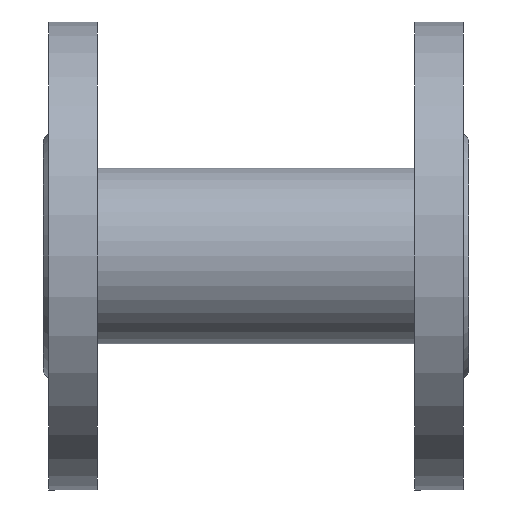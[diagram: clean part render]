
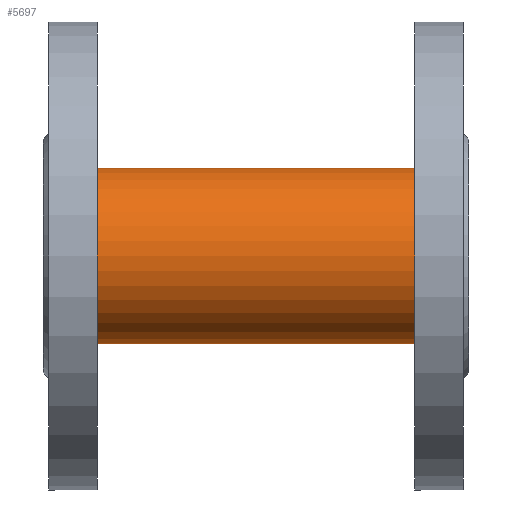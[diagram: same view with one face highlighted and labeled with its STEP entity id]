
A CAD part, front view. The second image highlights one B-rep face of the part: STEP entity #5697.
In plain terms, the highlighted cylindrical face has radius 31 mm (diameter 62 mm), a full revolution.
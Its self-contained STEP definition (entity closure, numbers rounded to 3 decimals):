
#1925=ELLIPSE('',#29330,43.841,31.);
#1926=ELLIPSE('',#29331,43.841,31.);
#1927=ELLIPSE('',#29332,43.841,31.);
#1928=ELLIPSE('',#29333,43.841,31.);
#2152=CYLINDRICAL_SURFACE('',#29336,31.);
#3135=FACE_BOUND('',#9742,.T.);
#3136=FACE_BOUND('',#9743,.T.);
#3137=FACE_BOUND('',#9744,.T.);
#4235=CIRCLE('',#29334,31.);
#4236=CIRCLE('',#29335,31.);
#5697=ADVANCED_FACE('',(#3135,#3136,#3137),#2152,.T.);
#9742=EDGE_LOOP('',(#15304,#15305,#15306,#15307,#15308,#15309));
#9743=EDGE_LOOP('',(#15310));
#9744=EDGE_LOOP('',(#15311));
#15304=ORIENTED_EDGE('',*,*,#22654,.T.);
#15305=ORIENTED_EDGE('',*,*,#22655,.T.);
#15306=ORIENTED_EDGE('',*,*,#22656,.T.);
#15307=ORIENTED_EDGE('',*,*,#22657,.T.);
#15308=ORIENTED_EDGE('',*,*,#22658,.T.);
#15309=ORIENTED_EDGE('',*,*,#22659,.T.);
#15310=ORIENTED_EDGE('',*,*,#22660,.F.);
#15311=ORIENTED_EDGE('',*,*,#22661,.F.);
#19406=VERTEX_POINT('',#47694);
#19407=VERTEX_POINT('',#47695);
#19408=VERTEX_POINT('',#47697);
#19409=VERTEX_POINT('',#47699);
#19410=VERTEX_POINT('',#47701);
#19411=VERTEX_POINT('',#47703);
#19412=VERTEX_POINT('',#47706);
#19413=VERTEX_POINT('',#47708);
#22654=EDGE_CURVE('',#19406,#19407,#1925,.T.);
#22655=EDGE_CURVE('',#19407,#19408,#1926,.T.);
#22656=EDGE_CURVE('',#19408,#19409,#25076,.T.);
#22657=EDGE_CURVE('',#19409,#19410,#1927,.T.);
#22658=EDGE_CURVE('',#19410,#19411,#1928,.T.);
#22659=EDGE_CURVE('',#19411,#19406,#25077,.T.);
#22660=EDGE_CURVE('',#19412,#19412,#4235,.T.);
#22661=EDGE_CURVE('',#19413,#19413,#4236,.T.);
#25076=LINE('',#47698,#27110);
#25077=LINE('',#47704,#27111);
#27110=VECTOR('',#34668,1.);
#27111=VECTOR('',#34673,1.);
#29330=AXIS2_PLACEMENT_3D('',#47693,#34664,#34665);
#29331=AXIS2_PLACEMENT_3D('',#47696,#34666,#34667);
#29332=AXIS2_PLACEMENT_3D('',#47700,#34669,#34670);
#29333=AXIS2_PLACEMENT_3D('',#47702,#34671,#34672);
#29334=AXIS2_PLACEMENT_3D('',#47705,#34674,#34675);
#29335=AXIS2_PLACEMENT_3D('',#47707,#34676,#34677);
#29336=AXIS2_PLACEMENT_3D('',#47709,#34678,#34679);
#34664=DIRECTION('',(-0.707,-0.707,0.));
#34665=DIRECTION('',(-0.707,0.707,0.));
#34666=DIRECTION('',(-0.707,-0.707,0.));
#34667=DIRECTION('',(-0.707,0.707,0.));
#34668=DIRECTION('',(1.,0.,0.));
#34669=DIRECTION('',(0.707,-0.707,0.));
#34670=DIRECTION('',(-0.707,-0.707,0.));
#34671=DIRECTION('',(0.707,-0.707,0.));
#34672=DIRECTION('',(-0.707,-0.707,0.));
#34673=DIRECTION('',(-1.,0.,0.));
#34674=DIRECTION('',(1.,0.,0.));
#34675=DIRECTION('',(0.,0.,1.));
#34676=DIRECTION('',(-1.,0.,0.));
#34677=DIRECTION('',(0.,0.,-1.));
#34678=DIRECTION('',(-1.,0.,0.));
#34679=DIRECTION('',(0.,0.,1.));
#47693=CARTESIAN_POINT('',(50.,-27.49,-29.5));
#47694=CARTESIAN_POINT('',(20.,2.51,-21.69));
#47695=CARTESIAN_POINT('',(19.,3.51,-29.5));
#47696=CARTESIAN_POINT('',(50.,-27.49,-29.5));
#47697=CARTESIAN_POINT('',(20.,2.51,-37.31));
#47698=CARTESIAN_POINT('',(20.,2.51,-37.31));
#47699=CARTESIAN_POINT('',(70.,2.51,-37.31));
#47700=CARTESIAN_POINT('',(40.,-27.49,-29.5));
#47701=CARTESIAN_POINT('',(71.,3.51,-29.5));
#47702=CARTESIAN_POINT('',(40.,-27.49,-29.5));
#47703=CARTESIAN_POINT('',(70.,2.51,-21.69));
#47704=CARTESIAN_POINT('',(70.,2.51,-21.69));
#47705=CARTESIAN_POINT('',(101.,-27.49,-29.5));
#47706=CARTESIAN_POINT('',(101.,-27.49,1.5));
#47707=CARTESIAN_POINT('',(-11.,-27.49,-29.5));
#47708=CARTESIAN_POINT('',(-11.,-27.49,-60.5));
#47709=CARTESIAN_POINT('',(76.,-27.49,-29.5));
